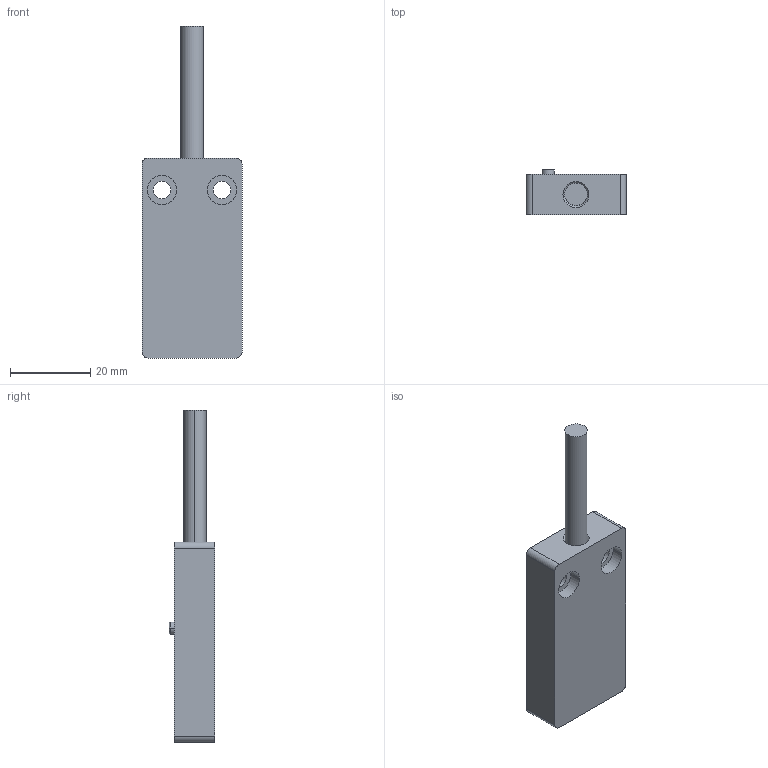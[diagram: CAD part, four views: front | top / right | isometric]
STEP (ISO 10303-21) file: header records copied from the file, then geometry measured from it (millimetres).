
FILE_DESCRIPTION((''),'2;1');
FILE_NAME('6372290081_SW0001','2024-09-11T09:40:28',('Rudolf.Poettker'),(''),'CREO PARAMETRIC BY PTC INC, 2022124','CREO PARAMETRIC BY PTC INC, 2022124','');
FILE_SCHEMA(('AUTOMOTIVE_DESIGN { 1 0 10303 214 1 1 1 1 }'));
Length unit declared in the file: millimetre
Products named in the file (1): 6372290081_SW0001
Bounding box: 25 x 11.4 x 83 mm (x, y, z)
Volume: 12738.4 mm3; surface area: 4945.2 mm2
Topology: 1 solids, 1 shells, 55 faces, 122 edges, 80 vertices
Faces by surface type: cylinder 26, plane 25, cone 2, torus 2
Entity records: 2968 total; most frequent: DIRECTION 316, CARTESIAN_POINT 276, ORIENTED_EDGE 244, PRESENTATION_STYLE_ASSIGNMENT 182, COLOUR_RGB 146, STYLED_ITEM 127, CURVE_STYLE 126, AXIS2_PLACEMENT_3D 123
